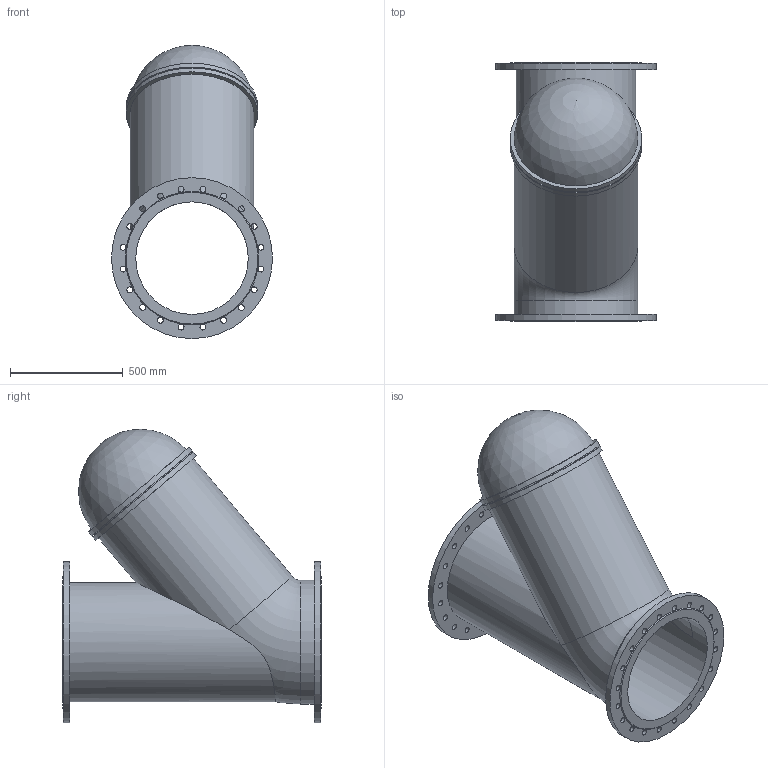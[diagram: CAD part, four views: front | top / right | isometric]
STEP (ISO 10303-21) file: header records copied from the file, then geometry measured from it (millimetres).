
FILE_DESCRIPTION(('STEP AP203'), '1');
FILE_NAME('Êëàïàí îáðàòíûé øàðîâîé ôëàíöåâûé 012F DN500', '', ('UNSPECIFIED'), ('UNSPECIFIED'), 'ASCON STEP Converter 1.6', 'ASCON Math Kernel', '');
FILE_SCHEMA(('CONFIG_CONTROL_DESIGN'));
Length unit declared in the file: millimetre
Bounding box: 715 x 1150 x 1302.86 mm (x, y, z)
Volume: 115903838.6 mm3; surface area: 6861110.5 mm2
Topology: 1 solids, 1 shells, 68 faces, 177 edges, 118 vertices
Faces by surface type: cylinder 51, plane 12, torus 2, cone 2, sphere 1
Full cylindrical faces by diameter (mm): 26 x40, 500 x2, 530 x1, 550 x2, 565 x1, 585 x2, 715 x2
Entity records: 2973 total; most frequent: CARTESIAN_POINT 693, DIRECTION 360, ORIENTED_EDGE 242, EDGE_LOOP 212, AXIS2_PLACEMENT_3D 180, EDGE_CURVE 121, VERTEX_POINT 117, CIRCLE 111
